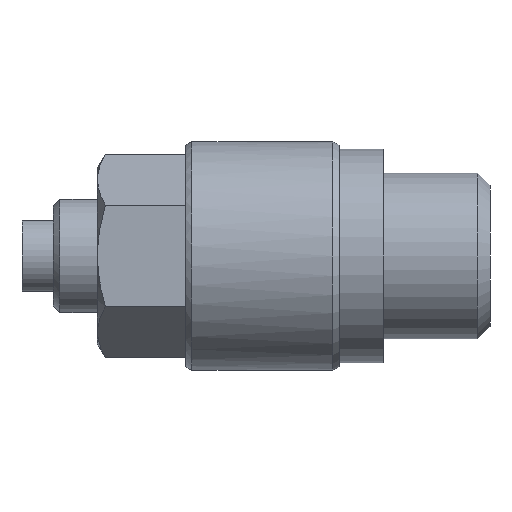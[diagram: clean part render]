
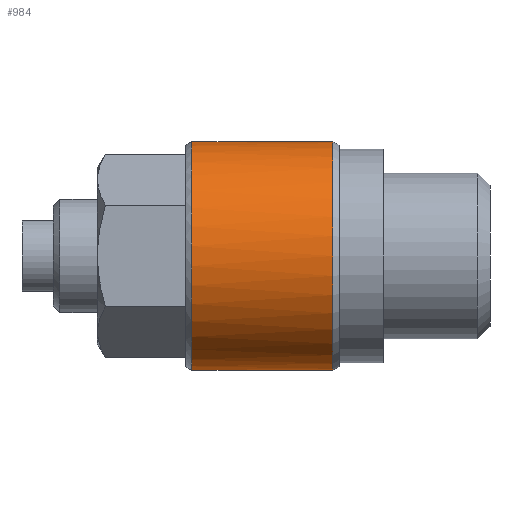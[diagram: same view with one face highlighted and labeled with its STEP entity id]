
A CAD part, left-side view. The second image highlights one B-rep face of the part: STEP entity #984.
In plain terms, the highlighted cylindrical face has radius 9.1 mm (diameter 18.2 mm), a full revolution.
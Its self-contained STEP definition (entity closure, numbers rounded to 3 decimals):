
#859=CARTESIAN_POINT('',(8.206,3.7,3.933));
#860=VERTEX_POINT('',#859);
#877=CARTESIAN_POINT('',(8.206,3.7,-3.933));
#878=VERTEX_POINT('',#877);
#886=CARTESIAN_POINT('',(0.0,3.7,0.0));
#887=DIRECTION('',(0.0,-1.0,0.0));
#888=DIRECTION('',(1.0,0.0,0.0));
#889=AXIS2_PLACEMENT_3D('',#886,#887,#888);
#890=CIRCLE('',#889,9.1);
#891=EDGE_CURVE('',#860,#878,#890,.T.);
#935=CARTESIAN_POINT('',(0.0,-1.9,0.0));
#936=DIRECTION('',(0.0,-1.0,0.0));
#937=DIRECTION('',(1.0,0.0,0.0));
#938=AXIS2_PLACEMENT_3D('',#935,#936,#937);
#939=CYLINDRICAL_SURFACE('',#938,9.1);
#940=CARTESIAN_POINT('',(8.206,3.7,3.933));
#941=CARTESIAN_POINT('',(8.003,3.25,4.357));
#942=CARTESIAN_POINT('',(7.784,2.698,4.724));
#943=CARTESIAN_POINT('',(7.436,1.431,5.256));
#944=CARTESIAN_POINT('',(7.325,0.701,5.4));
#945=CARTESIAN_POINT('',(7.325,0.0,5.4));
#946=CARTESIAN_POINT('',(7.325,-0.701,5.4));
#947=CARTESIAN_POINT('',(7.436,-1.431,5.256));
#948=CARTESIAN_POINT('',(7.799,-2.752,4.701));
#949=CARTESIAN_POINT('',(8.042,-3.347,4.29));
#950=CARTESIAN_POINT('',(8.477,-4.287,3.35));
#951=CARTESIAN_POINT('',(8.7,-4.7,2.754));
#952=CARTESIAN_POINT('',(9.013,-5.257,1.428));
#953=CARTESIAN_POINT('',(9.1,-5.4,0.697));
#954=CARTESIAN_POINT('',(9.1,-5.4,-0.697));
#955=CARTESIAN_POINT('',(9.013,-5.257,-1.428));
#956=CARTESIAN_POINT('',(8.7,-4.7,-2.754));
#957=CARTESIAN_POINT('',(8.477,-4.287,-3.35));
#958=CARTESIAN_POINT('',(8.042,-3.347,-4.29));
#959=CARTESIAN_POINT('',(7.799,-2.752,-4.701));
#960=CARTESIAN_POINT('',(7.436,-1.431,-5.256));
#961=CARTESIAN_POINT('',(7.325,-0.701,-5.4));
#962=CARTESIAN_POINT('',(7.325,0.701,-5.4));
#963=CARTESIAN_POINT('',(7.436,1.431,-5.256));
#964=CARTESIAN_POINT('',(7.784,2.698,-4.724));
#965=CARTESIAN_POINT('',(8.003,3.25,-4.357));
#966=CARTESIAN_POINT('',(8.206,3.7,-3.933));
#967=B_SPLINE_CURVE_WITH_KNOTS('',3,(#940,#941,#942,#943,#944,#945,#946,#947,#948,#949,#950,#951,#952,#953,#954,#955,#956,#957,#958,#959,#960,#961,#962,#963,#964,#965,#966),.UNSPECIFIED.,.F.,.U.,(4,2,3,2,2,2,2,2,2,2,2,2,4),(-0.403,-0.21,0.0,0.21,0.421,0.63,0.839,1.048,1.257,1.467,1.677,1.888,2.081),.UNSPECIFIED.);
#968=EDGE_CURVE('',#860,#878,#967,.T.);
#969=ORIENTED_EDGE('',*,*,#968,.F.);
#970=ORIENTED_EDGE('',*,*,#891,.T.);
#971=EDGE_LOOP('',(#969,#970));
#972=FACE_OUTER_BOUND('',#971,.T.);
#973=CARTESIAN_POINT('',(9.1,-7.5,0.0));
#974=VERTEX_POINT('',#973);
#975=CARTESIAN_POINT('',(0.0,-7.5,0.0));
#976=DIRECTION('',(0.0,-1.0,0.0));
#977=DIRECTION('',(1.0,0.0,0.0));
#978=AXIS2_PLACEMENT_3D('',#975,#976,#977);
#979=CIRCLE('',#978,9.1);
#980=EDGE_CURVE('',#974,#974,#979,.T.);
#981=ORIENTED_EDGE('',*,*,#980,.F.);
#982=EDGE_LOOP('',(#981));
#983=FACE_BOUND('',#982,.T.);
#984=ADVANCED_FACE('',(#972,#983),#939,.T.);
